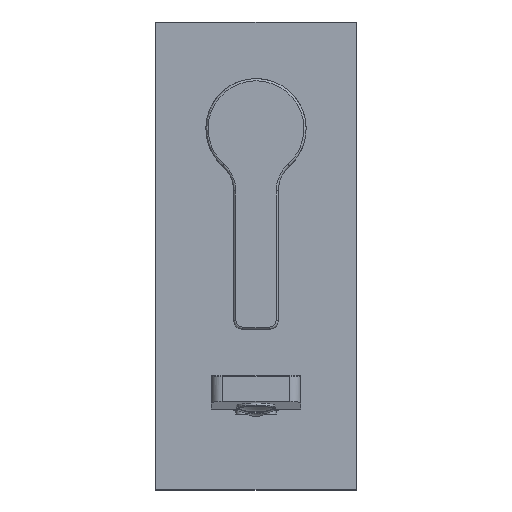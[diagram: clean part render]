
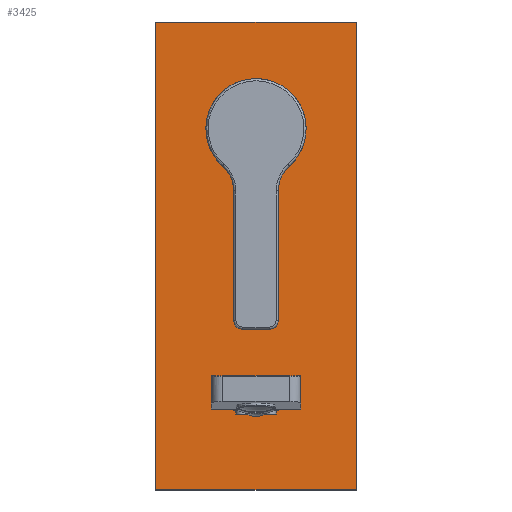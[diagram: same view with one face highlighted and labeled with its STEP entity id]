
A CAD part, top view. The second image highlights one B-rep face of the part: STEP entity #3425.
In plain terms, the highlighted planar face has unit normal (0, 0, 1).
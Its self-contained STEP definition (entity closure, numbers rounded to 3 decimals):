
#1020=CARTESIAN_POINT('',(0.,57.,0.));
#1021=DIRECTION('',(0.,0.,1.));
#1022=DIRECTION('',(-1.,0.,0.));
#1023=AXIS2_PLACEMENT_3D('',#1020,#1021,#1022);
#1030=DIRECTION('',(0.,-1.,0.));
#1031=VECTOR('',#1030,210.);
#1032=CARTESIAN_POINT('',(45.,105.,0.));
#1033=LINE('',#1032,#1031);
#1034=DIRECTION('',(-1.,0.,0.));
#1035=VECTOR('',#1034,90.);
#1036=CARTESIAN_POINT('',(45.,-105.,0.));
#1037=LINE('',#1036,#1035);
#1038=DIRECTION('',(0.,1.,0.));
#1039=VECTOR('',#1038,210.);
#1040=CARTESIAN_POINT('',(-45.,-105.,0.));
#1041=LINE('',#1040,#1039);
#1042=DIRECTION('',(1.,0.,0.));
#1043=VECTOR('',#1042,90.);
#1044=CARTESIAN_POINT('',(-45.,105.,0.));
#1045=LINE('',#1044,#1043);
#1046=DIRECTION('',(1.,0.,0.));
#1047=VECTOR('',#1046,8.181);
#1048=CARTESIAN_POINT('',(-19.8,-69.,0.));
#1049=LINE('',#1048,#1047);
#1050=CARTESIAN_POINT('',(-11.619,-84.,0.));
#1051=DIRECTION('',(0.,0.,-1.));
#1052=DIRECTION('',(0.,1.,0.));
#1053=AXIS2_PLACEMENT_3D('',#1050,#1051,#1052);
#1055=CARTESIAN_POINT('',(0.,-63.,0.));
#1056=DIRECTION('',(0.,0.,1.));
#1057=DIRECTION('',(-0.484,-0.875,0.));
#1058=AXIS2_PLACEMENT_3D('',#1055,#1056,#1057);
#1060=CARTESIAN_POINT('',(11.619,-84.,0.));
#1061=DIRECTION('',(0.,0.,1.));
#1062=DIRECTION('',(0.,1.,0.));
#1063=AXIS2_PLACEMENT_3D('',#1060,#1061,#1062);
#1065=DIRECTION('',(1.,0.,0.));
#1066=VECTOR('',#1065,8.181);
#1067=CARTESIAN_POINT('',(11.619,-69.,0.));
#1068=LINE('',#1067,#1066);
#1069=CARTESIAN_POINT('',(19.8,-68.8,0.));
#1070=DIRECTION('',(0.,0.,-1.));
#1071=DIRECTION('',(1.,0.,0.));
#1072=AXIS2_PLACEMENT_3D('',#1069,#1070,#1071);
#1074=DIRECTION('',(0.,1.,0.));
#1075=VECTOR('',#1074,14.6);
#1076=CARTESIAN_POINT('',(20.,-68.8,0.));
#1077=LINE('',#1076,#1075);
#1078=CARTESIAN_POINT('',(19.8,-54.2,0.));
#1079=DIRECTION('',(0.,0.,1.));
#1080=DIRECTION('',(1.,0.,0.));
#1081=AXIS2_PLACEMENT_3D('',#1078,#1079,#1080);
#1083=DIRECTION('',(-1.,0.,0.));
#1084=VECTOR('',#1083,39.6);
#1085=CARTESIAN_POINT('',(19.8,-54.,0.));
#1086=LINE('',#1085,#1084);
#1087=CARTESIAN_POINT('',(-19.8,-54.2,0.));
#1088=DIRECTION('',(0.,0.,-1.));
#1089=DIRECTION('',(-1.,0.,0.));
#1090=AXIS2_PLACEMENT_3D('',#1087,#1088,#1089);
#1092=DIRECTION('',(0.,-1.,0.));
#1093=VECTOR('',#1092,14.6);
#1094=CARTESIAN_POINT('',(-20.,-54.2,0.));
#1095=LINE('',#1094,#1093);
#1096=CARTESIAN_POINT('',(-19.8,-68.8,0.));
#1097=DIRECTION('',(0.,0.,-1.));
#1098=DIRECTION('',(0.,-1.,0.));
#1099=AXIS2_PLACEMENT_3D('',#1096,#1097,#1098);
#1133=CARTESIAN_POINT('',(0.,57.,0.));
#1134=DIRECTION('',(0.,0.,1.));
#1135=DIRECTION('',(1.,0.,0.));
#1136=AXIS2_PLACEMENT_3D('',#1133,#1134,#1135);
#1867=CARTESIAN_POINT('',(45.,105.,0.));
#1868=CARTESIAN_POINT('',(45.,-105.,0.));
#1869=VERTEX_POINT('',#1867);
#1870=VERTEX_POINT('',#1868);
#1871=CARTESIAN_POINT('',(-45.,-105.,0.));
#1872=VERTEX_POINT('',#1871);
#1873=CARTESIAN_POINT('',(-45.,105.,0.));
#1874=VERTEX_POINT('',#1873);
#1915=CARTESIAN_POINT('',(-19.8,-69.,0.));
#1916=CARTESIAN_POINT('',(-11.619,-69.,0.));
#1917=VERTEX_POINT('',#1915);
#1918=VERTEX_POINT('',#1916);
#1919=CARTESIAN_POINT('',(11.619,-69.,0.));
#1920=CARTESIAN_POINT('',(19.8,-69.,0.));
#1921=VERTEX_POINT('',#1919);
#1922=VERTEX_POINT('',#1920);
#1923=CARTESIAN_POINT('',(20.,-68.8,0.));
#1924=CARTESIAN_POINT('',(20.,-54.2,0.));
#1925=VERTEX_POINT('',#1923);
#1926=VERTEX_POINT('',#1924);
#1927=CARTESIAN_POINT('',(19.8,-54.,0.));
#1928=CARTESIAN_POINT('',(-19.8,-54.,0.));
#1929=VERTEX_POINT('',#1927);
#1930=VERTEX_POINT('',#1928);
#1931=CARTESIAN_POINT('',(-20.,-54.2,0.));
#1932=CARTESIAN_POINT('',(-20.,-68.8,0.));
#1933=VERTEX_POINT('',#1931);
#1934=VERTEX_POINT('',#1932);
#1935=CARTESIAN_POINT('',(-4.357,-70.875,0.));
#1936=CARTESIAN_POINT('',(4.357,-70.875,0.));
#1937=VERTEX_POINT('',#1935);
#1938=VERTEX_POINT('',#1936);
#2191=CARTESIAN_POINT('',(-20.35,57.,0.));
#2192=CARTESIAN_POINT('',(20.35,57.,0.));
#2193=VERTEX_POINT('',#2191);
#2194=VERTEX_POINT('',#2192);
#3379=CARTESIAN_POINT('',(0.,0.,0.));
#3380=DIRECTION('',(0.,0.,-1.));
#3381=DIRECTION('',(-1.,0.,0.));
#3382=AXIS2_PLACEMENT_3D('',#3379,#3380,#3381);
#3383=PLANE('',#3382);
#3385=ORIENTED_EDGE('',*,*,#3384,.T.);
#3387=ORIENTED_EDGE('',*,*,#3386,.T.);
#3389=ORIENTED_EDGE('',*,*,#3388,.T.);
#3391=ORIENTED_EDGE('',*,*,#3390,.T.);
#3392=EDGE_LOOP('',(#3385,#3387,#3389,#3391));
#3393=FACE_OUTER_BOUND('',#3392,.F.);
#3394=ORIENTED_EDGE('',*,*,#3369,.T.);
#3396=ORIENTED_EDGE('',*,*,#3395,.T.);
#3397=EDGE_LOOP('',(#3394,#3396));
#3398=FACE_BOUND('',#3397,.F.);
#3400=ORIENTED_EDGE('',*,*,#3399,.T.);
#3402=ORIENTED_EDGE('',*,*,#3401,.T.);
#3404=ORIENTED_EDGE('',*,*,#3403,.T.);
#3406=ORIENTED_EDGE('',*,*,#3405,.F.);
#3408=ORIENTED_EDGE('',*,*,#3407,.T.);
#3410=ORIENTED_EDGE('',*,*,#3409,.F.);
#3412=ORIENTED_EDGE('',*,*,#3411,.T.);
#3414=ORIENTED_EDGE('',*,*,#3413,.T.);
#3416=ORIENTED_EDGE('',*,*,#3415,.T.);
#3418=ORIENTED_EDGE('',*,*,#3417,.F.);
#3420=ORIENTED_EDGE('',*,*,#3419,.T.);
#3422=ORIENTED_EDGE('',*,*,#3421,.F.);
#3423=EDGE_LOOP('',(#3400,#3402,#3404,#3406,#3408,#3410,#3412,#3414,#3416,#3418,
#3420,#3422));
#3424=FACE_BOUND('',#3423,.F.);
#3425=ADVANCED_FACE('',(#3393,#3398,#3424),#3383,.F.);
#1024=CIRCLE('',#1023,20.35);
#1054=CIRCLE('',#1053,15.);
#1059=CIRCLE('',#1058,9.);
#1064=CIRCLE('',#1063,15.);
#1073=CIRCLE('',#1072,0.2);
#1082=CIRCLE('',#1081,0.2);
#1091=CIRCLE('',#1090,0.2);
#1100=CIRCLE('',#1099,0.2);
#1137=CIRCLE('',#1136,20.35);
#3369=EDGE_CURVE('',#2193,#2194,#1024,.T.);
#3384=EDGE_CURVE('',#1869,#1870,#1033,.T.);
#3386=EDGE_CURVE('',#1870,#1872,#1037,.T.);
#3388=EDGE_CURVE('',#1872,#1874,#1041,.T.);
#3390=EDGE_CURVE('',#1874,#1869,#1045,.T.);
#3395=EDGE_CURVE('',#2194,#2193,#1137,.T.);
#3399=EDGE_CURVE('',#1917,#1918,#1049,.T.);
#3401=EDGE_CURVE('',#1918,#1937,#1054,.T.);
#3403=EDGE_CURVE('',#1937,#1938,#1059,.T.);
#3405=EDGE_CURVE('',#1921,#1938,#1064,.T.);
#3407=EDGE_CURVE('',#1921,#1922,#1068,.T.);
#3409=EDGE_CURVE('',#1925,#1922,#1073,.T.);
#3411=EDGE_CURVE('',#1925,#1926,#1077,.T.);
#3413=EDGE_CURVE('',#1926,#1929,#1082,.T.);
#3415=EDGE_CURVE('',#1929,#1930,#1086,.T.);
#3417=EDGE_CURVE('',#1933,#1930,#1091,.T.);
#3419=EDGE_CURVE('',#1933,#1934,#1095,.T.);
#3421=EDGE_CURVE('',#1917,#1934,#1100,.T.);
